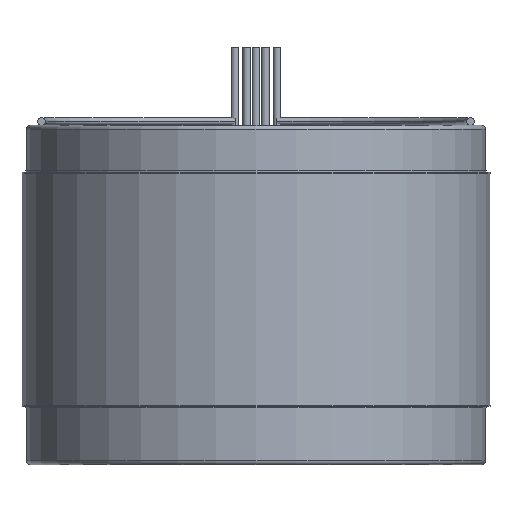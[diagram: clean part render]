
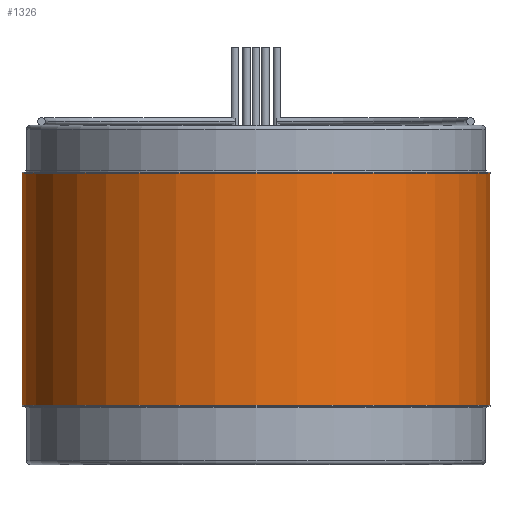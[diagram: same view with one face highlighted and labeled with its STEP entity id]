
A CAD part, front view. The second image highlights one B-rep face of the part: STEP entity #1326.
In plain terms, the highlighted cylindrical face has radius 76.2 mm (diameter 152.4 mm), a partial arc.
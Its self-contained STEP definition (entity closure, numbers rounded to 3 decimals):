
#221 = CIRCLE ( 'NONE', #698, 76.2 ) ;
#290 = DIRECTION ( 'NONE',  ( 0., 0., -1. ) ) ;
#351 = LINE ( 'NONE', #2465, #3316 ) ;
#357 = VECTOR ( 'NONE', #290, 1000. ) ;
#512 = CARTESIAN_POINT ( 'NONE',  ( 76.2, 0., 37.744 ) ) ;
#548 = AXIS2_PLACEMENT_3D ( 'NONE', #1124, #2297, #1107 ) ;
#587 = CARTESIAN_POINT ( 'NONE',  ( -76.2, 0., 37.744 ) ) ;
#623 = ORIENTED_EDGE ( 'NONE', *, *, #1608, .T. ) ;
#630 = CARTESIAN_POINT ( 'NONE',  ( -76.2, 0., -37.744 ) ) ;
#635 = ORIENTED_EDGE ( 'NONE', *, *, #2002, .F. ) ;
#698 = AXIS2_PLACEMENT_3D ( 'NONE', #2168, #1627, #1934 ) ;
#719 = VERTEX_POINT ( 'NONE', #512 ) ;
#796 = DIRECTION ( 'NONE',  ( 0., 0., -1. ) ) ;
#856 = AXIS2_PLACEMENT_3D ( 'NONE', #1956, #796, #1352 ) ;
#988 = LINE ( 'NONE', #1176, #357 ) ;
#1107 = DIRECTION ( 'NONE',  ( 1., 0., 0. ) ) ;
#1124 = CARTESIAN_POINT ( 'NONE',  ( 0., 0., 37.744 ) ) ;
#1176 = CARTESIAN_POINT ( 'NONE',  ( 76.2, 0., 37.744 ) ) ;
#1326 = ADVANCED_FACE ( 'NONE', ( #1386 ), #2452, .T. ) ;
#1352 = DIRECTION ( 'NONE',  ( -1., 0., 0. ) ) ;
#1386 = FACE_OUTER_BOUND ( 'NONE', #1631, .T. ) ;
#1608 = EDGE_CURVE ( 'NONE', #3208, #3554, #221, .T. ) ;
#1627 = DIRECTION ( 'NONE',  ( 0., 0., 1. ) ) ;
#1631 = EDGE_LOOP ( 'NONE', ( #635, #2594, #2028, #623 ) ) ;
#1934 = DIRECTION ( 'NONE',  ( 1., 0., 0. ) ) ;
#1956 = CARTESIAN_POINT ( 'NONE',  ( 0., 0., 37.744 ) ) ;
#2002 = EDGE_CURVE ( 'NONE', #719, #3554, #988, .T. ) ;
#2028 = ORIENTED_EDGE ( 'NONE', *, *, #2292, .T. ) ;
#2168 = CARTESIAN_POINT ( 'NONE',  ( 0., 0., -37.744 ) ) ;
#2182 = EDGE_CURVE ( 'NONE', #2689, #719, #2354, .T. ) ;
#2292 = EDGE_CURVE ( 'NONE', #2689, #3208, #351, .T. ) ;
#2297 = DIRECTION ( 'NONE',  ( 0., 0., 1. ) ) ;
#2354 = CIRCLE ( 'NONE', #548, 76.2 ) ;
#2402 = CARTESIAN_POINT ( 'NONE',  ( 76.2, 0., -37.744 ) ) ;
#2452 = CYLINDRICAL_SURFACE ( 'NONE', #856, 76.2 ) ;
#2465 = CARTESIAN_POINT ( 'NONE',  ( -76.2, 0., 37.744 ) ) ;
#2594 = ORIENTED_EDGE ( 'NONE', *, *, #2182, .F. ) ;
#2689 = VERTEX_POINT ( 'NONE', #587 ) ;
#3208 = VERTEX_POINT ( 'NONE', #630 ) ;
#3316 = VECTOR ( 'NONE', #3329, 1000. ) ;
#3329 = DIRECTION ( 'NONE',  ( 0., 0., -1. ) ) ;
#3554 = VERTEX_POINT ( 'NONE', #2402 ) ;
